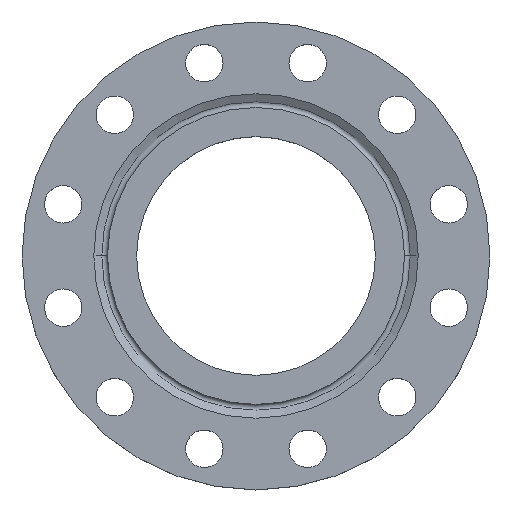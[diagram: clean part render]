
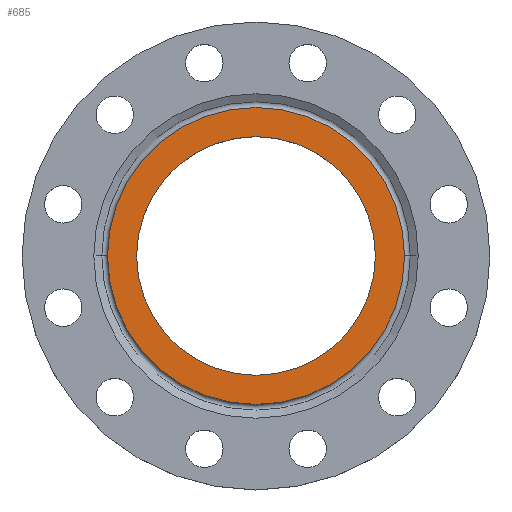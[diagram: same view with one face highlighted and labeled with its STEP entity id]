
A CAD part, top view. The second image highlights one B-rep face of the part: STEP entity #685.
In plain terms, the highlighted planar face has unit normal (0, 0, 1).
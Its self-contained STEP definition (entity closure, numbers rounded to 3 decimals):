
#19 = EDGE_CURVE ( 'NONE', #1391, #803, #1393, .T. ) ;
#42 = CARTESIAN_POINT ( 'NONE',  ( 95.67, 0., 0. ) ) ;
#214 = EDGE_CURVE ( 'NONE', #803, #1391, #695, .T. ) ;
#397 = EDGE_CURVE ( 'NONE', #1228, #1397, #1091, .T. ) ;
#450 = CARTESIAN_POINT ( 'NONE',  ( -119., 0., 0. ) ) ;
#497 = DIRECTION ( 'NONE',  ( 1., 0., 0. ) ) ;
#500 = DIRECTION ( 'NONE',  ( 0., 0., 1. ) ) ;
#502 = CARTESIAN_POINT ( 'NONE',  ( 0., 0., 0. ) ) ;
#503 = PLANE ( 'NONE',  #1389 ) ;
#506 = FACE_OUTER_BOUND ( 'NONE', #1240, .T. ) ;
#507 = FACE_BOUND ( 'NONE', #1300, .T. ) ;
#595 = DIRECTION ( 'NONE',  ( 0., 0., 1. ) ) ;
#596 = DIRECTION ( 'NONE',  ( 1., 0., 0. ) ) ;
#597 = DIRECTION ( 'NONE',  ( 0., 0., 1. ) ) ;
#598 = CARTESIAN_POINT ( 'NONE',  ( 0., 0., 0. ) ) ;
#633 = AXIS2_PLACEMENT_3D ( 'NONE', #1357, #595, #1073 ) ;
#655 = CIRCLE ( 'NONE', #633, 95.67 ) ;
#657 = DIRECTION ( 'NONE',  ( -1., 0., 0. ) ) ;
#659 = DIRECTION ( 'NONE',  ( 0., 0., -1. ) ) ;
#661 = CARTESIAN_POINT ( 'NONE',  ( 0., 0., 0. ) ) ;
#685 = ADVANCED_FACE ( 'NONE', ( #507, #506 ), #503, .T. ) ;
#693 = AXIS2_PLACEMENT_3D ( 'NONE', #661, #659, #657 ) ;
#695 = CIRCLE ( 'NONE', #693, 119. ) ;
#750 = DIRECTION ( 'NONE',  ( -1., 0., 0. ) ) ;
#751 = DIRECTION ( 'NONE',  ( 0., 0., -1. ) ) ;
#753 = CARTESIAN_POINT ( 'NONE',  ( 0., 0., 0. ) ) ;
#803 = VERTEX_POINT ( 'NONE', #450 ) ;
#1026 = ORIENTED_EDGE ( 'NONE', *, *, #397, .F. ) ;
#1028 = ORIENTED_EDGE ( 'NONE', *, *, #1347, .F. ) ;
#1030 = ORIENTED_EDGE ( 'NONE', *, *, #214, .F. ) ;
#1031 = ORIENTED_EDGE ( 'NONE', *, *, #19, .F. ) ;
#1071 = AXIS2_PLACEMENT_3D ( 'NONE', #598, #597, #596 ) ;
#1073 = DIRECTION ( 'NONE',  ( 1., 0., 0. ) ) ;
#1091 = CIRCLE ( 'NONE', #1071, 95.67 ) ;
#1192 = CARTESIAN_POINT ( 'NONE',  ( -95.67, 0., 0. ) ) ;
#1228 = VERTEX_POINT ( 'NONE', #42 ) ;
#1240 = EDGE_LOOP ( 'NONE', ( #1030, #1031 ) ) ;
#1242 = CARTESIAN_POINT ( 'NONE',  ( 119., 0., 0. ) ) ;
#1253 = AXIS2_PLACEMENT_3D ( 'NONE', #753, #751, #750 ) ;
#1300 = EDGE_LOOP ( 'NONE', ( #1026, #1028 ) ) ;
#1347 = EDGE_CURVE ( 'NONE', #1397, #1228, #655, .T. ) ;
#1357 = CARTESIAN_POINT ( 'NONE',  ( 0., 0., 0. ) ) ;
#1389 = AXIS2_PLACEMENT_3D ( 'NONE', #502, #500, #497 ) ;
#1391 = VERTEX_POINT ( 'NONE', #1242 ) ;
#1393 = CIRCLE ( 'NONE', #1253, 119. ) ;
#1397 = VERTEX_POINT ( 'NONE', #1192 ) ;
